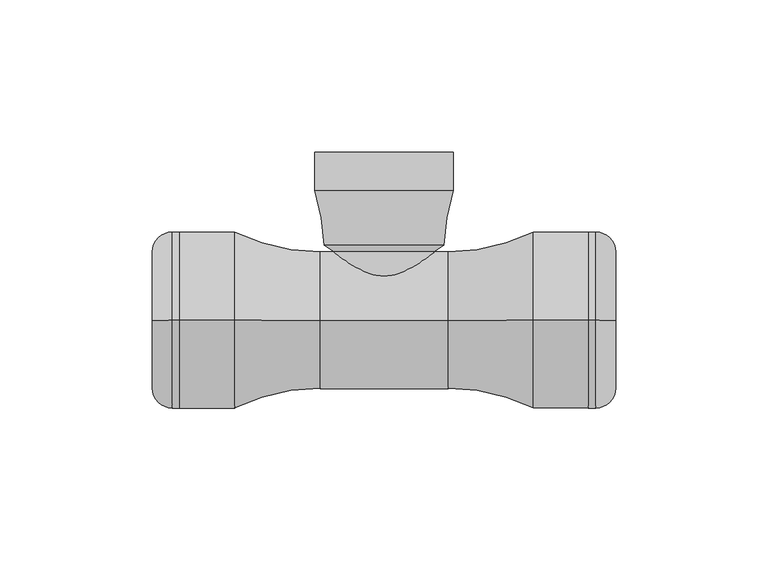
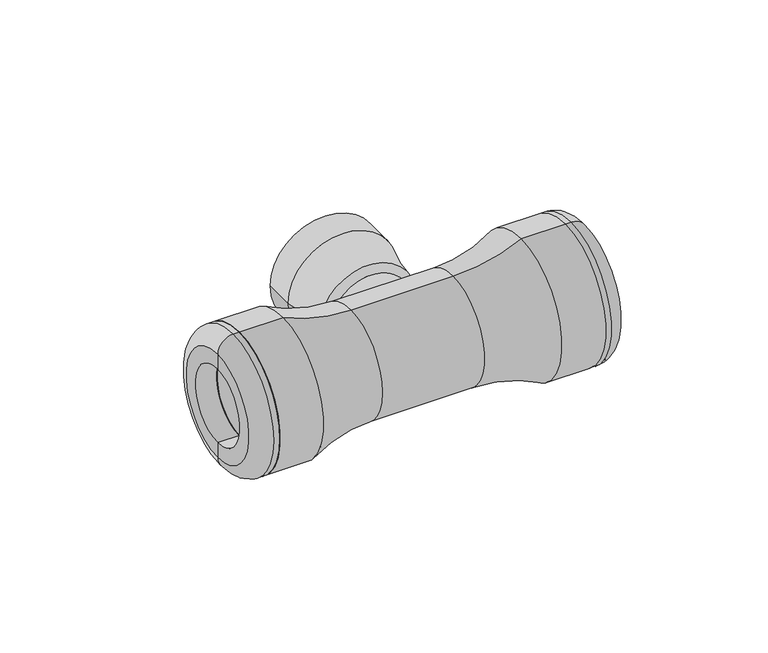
"""IFC4 building model written with IfcOpenShell, lengths in millimetres: pipe fitting geometry, Plumbing_Pipe-Fittings_Plasson_Tee-with-Threaded-Female-Offtake-90_1014 : Plumbing_Pipe-Fittings_Plasson_Tee-with-Threaded-Female-Offtake-90_1014."""

import ifcopenshell
import ifcopenshell.guid

model = None  # the IFC model being written
_history = None  # IfcOwnerHistory: only IFC2X3 demands one
_inside = {}  # id of a spatial element -> (the spatial element, [elements in it])
_under = {}  # id of a project, library or spatial element -> (it, [spatial elements below it])
_declared = {}  # id of a project -> (the project, [libraries it declares])
_typed = {}  # id of a type object -> (the type object, [elements of that type])
_made_of = {}  # id of a material, layer set ... -> (it, [elements and type objects made of it])


def new_model(schema):
    """Start an empty IFC model of exactly this schema.

    Asked for "IFC4X3", IfcOpenShell would pick the latest addendum, in which some entities
    have other attributes; the version numbers below select the first issue.
    IFC2X3 requires an IfcOwnerHistory on every rooted entity: one is made here for all.
    """
    global model, _history
    if schema == "IFC4X3":
        model = ifcopenshell.file(schema_version=(4, 3, 0, 0))
    else:
        model = ifcopenshell.file(schema=schema)
    _inside.clear()
    _under.clear()
    _declared.clear()
    _typed.clear()
    _made_of.clear()
    _history = None
    if model.schema == "IFC2X3":
        org = make("IfcOrganization", Name="unknown")
        user = make(
            "IfcPersonAndOrganization",
            ThePerson=make("IfcPerson", FamilyName="unknown"),
            TheOrganization=org,
        )
        app = make(
            "IfcApplication",
            ApplicationDeveloper=org,
            Version="unknown",
            ApplicationFullName="unknown",
            ApplicationIdentifier="unknown",
        )
        _history = make(
            "IfcOwnerHistory",
            OwningUser=user,
            OwningApplication=app,
            ChangeAction="ADDED",
            CreationDate=0,
        )
    return model


def make(cls, **values):
    """One entity of the class cls with the attributes given. An attribute that is None is left unset."""
    return model.create_entity(
        cls, **{name: value for name, value in values.items() if value is not None}
    )


def rooted(cls, **values):
    """An entity with a GlobalId (a new one), such as an element, a storey or a relation."""
    return make(cls, GlobalId=ifcopenshell.guid.new(), OwnerHistory=_history, **values)


def si_unit(unit_type, name, prefix=None):
    """IfcSIUnit, for example si_unit("LENGTHUNIT", "METRE", prefix="MILLI")."""
    return make("IfcSIUnit", UnitType=unit_type, Prefix=prefix, Name=name)


def assignment(units):
    """IfcUnitAssignment: the units of a project."""
    return None if units is None else make("IfcUnitAssignment", Units=units)


def point(xyz):
    """IfcCartesianPoint."""
    return None if xyz is None else make("IfcCartesianPoint", Coordinates=xyz)


def direction(xyz):
    """IfcDirection."""
    return None if xyz is None else make("IfcDirection", DirectionRatios=xyz)


def frame(location, z_axis=None, x_axis=None):
    """IfcAxis2Placement3D, a coordinate frame: its origin and axes. An axis left out is left unset."""
    return make(
        "IfcAxis2Placement3D",
        Location=point(location),
        Axis=direction(z_axis),
        RefDirection=direction(x_axis),
    )


def origin():
    """The frame at (0, 0, 0) with its axes left unset."""
    return frame((0.0, 0.0, 0.0))


def place(relative_to, where):
    """IfcLocalPlacement: puts the frame where relative to a parent placement (None: the world)."""
    return make(
        "IfcLocalPlacement", PlacementRelTo=relative_to, RelativePlacement=where
    )


def context(
    kind, dimensions, precision=None, world=None, true_north=None, identifier=None
):
    """IfcGeometricRepresentationContext, for example the 3D "Model" context."""
    return make(
        "IfcGeometricRepresentationContext",
        ContextIdentifier=identifier,
        ContextType=kind,
        CoordinateSpaceDimension=dimensions,
        Precision=precision,
        WorldCoordinateSystem=world,
        TrueNorth=true_north,
    )


def project(units=None, contexts=None):
    """IfcProject with its units and contexts."""
    return rooted(
        "IfcProject",
        Name="project",
        RepresentationContexts=contexts,
        UnitsInContext=assignment(units),
    )


def spatial(cls, under=None, at=None, **own):
    """A site, building, storey or space (cls), placed at a placement, below another one or the project."""
    s = rooted(cls, ObjectPlacement=at, **own)
    if under is not None:
        _under.setdefault(under.id(), (under, []))[1].append(s)
    return s


def polyline(points):
    """IfcPolyline through the points."""
    return make("IfcPolyline", Points=[point(p) for p in points])


def circle_curve(where, radius):
    """IfcCircle in the frame where."""
    return make("IfcCircle", Position=where, Radius=radius)


def ellipse_curve(where, semi_axis1, semi_axis2):
    """IfcEllipse in the frame where."""
    return make(
        "IfcEllipse", Position=where, SemiAxis1=semi_axis1, SemiAxis2=semi_axis2
    )


def trimmed(basis, trim1, trim2, sense, master):
    """IfcTrimmedCurve: the piece of a basis curve between two trims."""
    return make(
        "IfcTrimmedCurve",
        BasisCurve=basis,
        Trim1=trim1,
        Trim2=trim2,
        SenseAgreement=sense,
        MasterRepresentation=master,
    )


def shape(context_of_items, identifier, shape_type, items):
    """IfcShapeRepresentation: the items that make up one representation, for example the "Body"."""
    return make(
        "IfcShapeRepresentation",
        ContextOfItems=context_of_items,
        RepresentationIdentifier=identifier,
        RepresentationType=shape_type,
        Items=items,
    )


def source(mapping_origin, context_of_items, identifier, shape_type, items):
    """IfcRepresentationMap: a shape defined once, which mapped items show again and again."""
    return make(
        "IfcRepresentationMap",
        MappingOrigin=mapping_origin,
        MappedRepresentation=shape(context_of_items, identifier, shape_type, items),
    )


def transform(
    local_origin,
    x_axis=None,
    y_axis=None,
    z_axis=None,
    scale=None,
    scale2=None,
    scale3=None,
    uniform=True,
):
    """IfcCartesianTransformationOperator3D, or its non-uniform kind. x_axis, y_axis, z_axis: its Axis1, 2, 3."""
    if uniform:
        return make(
            "IfcCartesianTransformationOperator3D",
            Axis1=direction(x_axis),
            Axis2=direction(y_axis),
            LocalOrigin=point(local_origin),
            Scale=scale,
            Axis3=direction(z_axis),
        )
    return make(
        "IfcCartesianTransformationOperator3DnonUniform",
        Axis1=direction(x_axis),
        Axis2=direction(y_axis),
        LocalOrigin=point(local_origin),
        Scale=scale,
        Axis3=direction(z_axis),
        Scale2=scale2,
        Scale3=scale3,
    )


def mapped(mapping_source, mapping_target):
    """IfcMappedItem: shows the shape of a source again, moved by a transform."""
    return make(
        "IfcMappedItem", MappingSource=mapping_source, MappingTarget=mapping_target
    )


def made_of(thing, what):
    """Note that an element or type object is made of a material, layer set ...; save() writes the relation."""
    if what is not None:
        _made_of.setdefault(what.id(), (what, []))[1].append(thing)
    return thing


def element(
    cls,
    number,
    at=None,
    inside=None,
    cuts=None,
    type_object=None,
    material=None,
    context=None,
    identifier="Body",
    shape_type=None,
    held_by="IfcProductDefinitionShape",
    body=None,
    shapes=None,
    **own,
):
    """One element of the class cls, such as IfcWall. Its Tag is "e" and its number.

    at: its placement. inside: the storey or other place that contains it. cuts: it is an
    opening in that element (IfcRelVoidsElement). A single representation is given by context,
    identifier, shape_type and body (its items); several are given by shapes. held_by: the class
    of the entity that holds the representations. save() writes the other relations.
    """
    e = rooted(cls, Tag="e%d" % number, ObjectPlacement=at, **own)
    if body is not None:
        shapes = [shape(context, identifier, shape_type, body)]
    if shapes is not None:
        e.Representation = make(held_by, Representations=shapes)
    if inside is not None:
        _inside.setdefault(inside.id(), (inside, []))[1].append(e)
    if cuts is not None:
        rooted(
            "IfcRelVoidsElement", RelatingBuildingElement=cuts, RelatedOpeningElement=e
        )
    if type_object is not None:
        _typed.setdefault(type_object.id(), (type_object, []))[1].append(e)
    return made_of(e, material)


def aggregate(whole, parts):
    """IfcRelAggregates: a whole, such as a stair, and the parts it consists of."""
    return rooted("IfcRelAggregates", RelatingObject=whole, RelatedObjects=parts)


def save(model, path):
    """Write the relations noted so far, then the file.

    IfcRelAggregates (storeys below a building ...), IfcRelContainedInSpatialStructure (elements
    in a storey), IfcRelDefinesByType, IfcRelAssociatesMaterial and IfcRelDeclares: one each for
    every whole, place, type object, material and project.
    """
    for whole, parts in _under.values():
        aggregate(whole, parts)
    for where, things in _inside.values():
        rooted(
            "IfcRelContainedInSpatialStructure",
            RelatedElements=things,
            RelatingStructure=where,
        )
    for kind, things in _typed.values():
        rooted("IfcRelDefinesByType", RelatedObjects=things, RelatingType=kind)
    for what, things in _made_of.values():
        rooted("IfcRelAssociatesMaterial", RelatedObjects=things, RelatingMaterial=what)
    for by, libraries in _declared.values():
        rooted("IfcRelDeclares", RelatingContext=by, RelatedDefinitions=libraries)
    model.write(path)


def plane_surface(at):
    """IfcPlane: the flat surface through the origin of the frame at, square to its z axis."""
    return make("IfcPlane", Position=at)


def cylinder_surface(at, radius):
    """IfcCylindricalSurface: all points at the distance radius from the z axis of the frame at."""
    return make("IfcCylindricalSurface", Position=at, Radius=radius)


def revolved_surface(curve, axis_point, axis_direction):
    """IfcSurfaceOfRevolution: the curve turned about the line through axis_point along axis_direction."""
    return make(
        "IfcSurfaceOfRevolution",
        SweptCurve=make("IfcArbitraryOpenProfileDef", ProfileType="CURVE", Curve=curve),
        AxisPosition=make("IfcAxis1Placement", Location=point(axis_point), Axis=direction(axis_direction)),
    )


def advanced_brep(points, edges, surfaces, faces):
    """IfcAdvancedBrep: a solid bounded by faces that lie on surfaces and meet in shared edges.

    An edge is (start, end): straight between two places in points (the first is 0);
    or (start, end, curve); or (start, end, curve, False) where it runs against its curve.
    A face is (place in surfaces, loops), or (place, loops, False) where it looks against
    its surface's normal. A loop lists edges by number (the first is 1), with a minus sign
    where the edge is run from its end to its start. The first loop is the outer one.
    """
    corners = [point(p) for p in points]
    vertices = [make("IfcVertexPoint", VertexGeometry=c) for c in corners]
    made = []
    for start, end, *more in edges:
        made.append(
            make(
                "IfcEdgeCurve",
                EdgeStart=vertices[start],
                EdgeEnd=vertices[end],
                EdgeGeometry=more[0] if more else make("IfcPolyline", Points=[corners[start], corners[end]]),
                SameSense=more[1] if len(more) > 1 else True,
            )
        )
    hull = []
    for where, loops, *sense in faces:
        bounds = []
        for j, loop in enumerate(loops):
            ring = [make("IfcOrientedEdge", EdgeElement=made[abs(k) - 1], Orientation=k > 0) for k in loop]
            bounds.append(
                make(
                    "IfcFaceOuterBound" if j == 0 else "IfcFaceBound",
                    Bound=make("IfcEdgeLoop", EdgeList=ring),
                    Orientation=True,
                )
            )
        hull.append(make("IfcAdvancedFace", Bounds=bounds, FaceSurface=surfaces[where], SameSense=sense[0] if sense else True))
    return make("IfcAdvancedBrep", Outer=make("IfcClosedShell", CfsFaces=hull))


def pipe_fitting_9204cc5e(model_context):
    return source(origin(), model_context, "Body", "AdvancedBrep", [
        advanced_brep(
        [(0.0, 55.0, -17.15), (0.0, 55.0, 17.15), (0.0, 55.0, 15.15), (0.0, 55.0, -15.15), (0.0, 34.0, -17.15), (0.0, 34.0, 17.15), (0.0, 34.0, -15.15), (0.0, 34.0, 15.15)],
        [
            (0, 1, circle_curve(frame((0.0, 55.0, 0.0), z_axis=(0.0, 1.0, 0.0), x_axis=(0.0, 0.0, 1.0000000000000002)), 17.15)),
            (1, 2),
            (2, 3, circle_curve(frame((0.0, 55.0, 0.0), z_axis=(0.0, -1.0, 0.0), x_axis=(0.0, 0.0, 1.0000000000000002)), 15.15)),
            (3, 0),
            (1, 0, circle_curve(frame((0.0, 55.0, 0.0), z_axis=(0.0, 1.0, 0.0), x_axis=(0.0, 0.0, 1.0000000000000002)), 17.15)),
            (3, 2, circle_curve(frame((0.0, 55.0, 0.0), z_axis=(0.0, -1.0, 0.0), x_axis=(0.0, 0.0, 1.0000000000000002)), 15.15)),
            (4, 5, circle_curve(frame((0.0, 34.0, 0.0), z_axis=(0.0, 1.0, 0.0), x_axis=(0.0, 0.0, 1.0000000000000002)), 17.15)),
            (5, 1),
            (0, 4),
            (5, 4, circle_curve(frame((0.0, 34.0, 0.0), z_axis=(0.0, 1.0, 0.0), x_axis=(0.0, 0.0, 1.0000000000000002)), 17.15)),
            (6, 7, circle_curve(frame((0.0, 34.0, 0.0), z_axis=(0.0, 1.0, 0.0), x_axis=(0.0, 0.0, 1.0000000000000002)), 15.15)),
            (7, 5),
            (4, 6),
            (7, 6, circle_curve(frame((0.0, 34.0, 0.0), z_axis=(0.0, 1.0, 0.0), x_axis=(0.0, 0.0, 1.0000000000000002)), 15.15)),
            (2, 7),
            (6, 3),
        ],
        [
            plane_surface(frame((0.0, 55.0, 0.0), z_axis=(0.0, 1.0, 0.0), x_axis=(0.0, 0.0, 1.0))),
            cylinder_surface(frame((0.0, 49.3333333, 0.0), z_axis=(0.0, -1.0000000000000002, 0.0), x_axis=(0.0, 0.0, 1.0000000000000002)), 17.15),
            plane_surface(frame((0.0, 34.0, 0.0), z_axis=(0.0, -1.0, 0.0), x_axis=(0.0, 0.0, 1.0))),
            revolved_surface(polyline([(0.0, 33.99999999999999, 15.150000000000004), (0.0, 55.0, 15.150000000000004)]), (0.0, 49.3333333, 0.0), (0.0, -1.0000000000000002, 0.0)),
        ],
        [
            (0, [[1, 2, 3, 4]]),
            (0, [[5, -4, 6, -2]]),
            (1, [[7, 8, -1, 9]]),
            (1, [[10, -9, -5, -8]]),
            (2, [[11, 12, -7, 13]]),
            (2, [[14, -13, -10, -12]]),
            (3, [[-3, 15, -11, 16]]),
            (3, [[-6, -16, -14, -15]]),
        ],
    ),
        advanced_brep(
        [(22.65, 42.5, 0.0), (-22.65, 42.5, 0.0), (-22.65, 55.0, 0.0), (22.65, 55.0, 0.0), (17.15, 55.0, 0.0), (-17.15, 55.0, 0.0), (-17.15, 34.0, 0.0), (17.15, 34.0, 0.0), (16.65, 22.5, 0.0), (-16.65, 22.5, 0.0), (-19.65, 24.4615047, 0.0), (19.65, 24.4615047, 0.0), (15.15, 34.0, 0.0), (-15.15, 34.0, 0.0), (-15.15, 0.0, 0.0), (15.15, 0.0, 0.0), (16.65, 0.0, 0.0), (-16.65, 0.0, 0.0)],
        [
            (0, 1, circle_curve(frame((0.0, 42.5, 0.0), z_axis=(0.0, 1.0, 0.0), x_axis=(-1.0, 0.0, 0.0)), 22.65)),
            (1, 2),
            (2, 3, circle_curve(frame((0.0, 55.0, 0.0), z_axis=(0.0, -1.0, 0.0), x_axis=(-1.0, 0.0, 0.0)), 22.65)),
            (3, 0),
            (1, 0, circle_curve(frame((0.0, 42.5, 0.0), z_axis=(0.0, 1.0, 0.0), x_axis=(-1.0, 0.0, 0.0)), 22.65)),
            (3, 2, circle_curve(frame((0.0, 55.0, 0.0), z_axis=(0.0, -1.0, 0.0), x_axis=(-1.0, 0.0, 0.0)), 22.65)),
            (4, 5, circle_curve(frame((0.0, 55.0, 0.0), z_axis=(0.0, 1.0, 0.0), x_axis=(-1.0, 0.0, 0.0)), 17.15)),
            (5, 6),
            (6, 7, circle_curve(frame((0.0, 34.0, 0.0), z_axis=(0.0, -1.0, 0.0), x_axis=(-1.0, 0.0, 0.0)), 17.15)),
            (7, 4),
            (5, 4, circle_curve(frame((0.0, 55.0, 0.0), z_axis=(0.0, 1.0, 0.0), x_axis=(-1.0, 0.0, 0.0)), 17.15)),
            (7, 6, circle_curve(frame((0.0, 34.0, 0.0), z_axis=(0.0, -1.0, 0.0), x_axis=(-1.0, 0.0, 0.0)), 17.15)),
            (2, 5),
            (4, 3),
            (8, 9, circle_curve(frame((0.0, 22.5, 0.0), z_axis=(0.0, 1.0, 0.0), x_axis=(-1.0, 0.0, 0.0)), 16.65)),
            (9, 10),
            (10, 11, circle_curve(frame((0.0, 24.4615047, 0.0), z_axis=(0.0, -1.0, 0.0), x_axis=(-1.0, 0.0, 0.0)), 19.65)),
            (11, 8),
            (9, 8, circle_curve(frame((0.0, 22.5, 0.0), z_axis=(0.0, 1.0, 0.0), x_axis=(-1.0, 0.0, 0.0)), 16.65)),
            (11, 10, circle_curve(frame((0.0, 24.4615047, 0.0), z_axis=(0.0, -1.0, 0.0), x_axis=(-1.0, 0.0, 0.0)), 19.65)),
            (12, 13, circle_curve(frame((0.0, 34.0, 0.0), z_axis=(0.0, 1.0, 0.0), x_axis=(-1.0, 0.0, 0.0)), 15.15)),
            (13, 14),
            (14, 15, circle_curve(frame((0.0, 0.0, 0.0), z_axis=(0.0, -1.0, 0.0), x_axis=(-1.0, 0.0, 0.0)), 15.15)),
            (15, 12),
            (13, 12, circle_curve(frame((0.0, 34.0, 0.0), z_axis=(0.0, 1.0, 0.0), x_axis=(-1.0, 0.0, 0.0)), 15.15)),
            (15, 14, circle_curve(frame((0.0, 0.0, 0.0), z_axis=(0.0, -1.0, 0.0), x_axis=(-1.0, 0.0, 0.0)), 15.15)),
            (6, 13),
            (12, 7),
            (10, 1, circle_curve(frame((-86.6454313, 22.5881424, 0.0), z_axis=(0.0, 0.0, 1.0), x_axis=(1.0, 0.0, 0.0)), 67.0216182)),
            (0, 11, circle_curve(frame((86.6454313, 22.5881424, 0.0), z_axis=(0.0, 0.0, 1.0), x_axis=(-1.0, 0.0, 0.0)), 67.0216182)),
            (16, 17, circle_curve(frame((0.0, 0.0, 0.0), z_axis=(0.0, 1.0, 0.0), x_axis=(-1.0, 0.0, 0.0)), 16.65)),
            (17, 9),
            (8, 16),
            (17, 16, circle_curve(frame((0.0, 0.0, 0.0), z_axis=(0.0, 1.0, 0.0), x_axis=(-1.0, 0.0, 0.0)), 16.65)),
            (14, 17),
            (16, 15),
        ],
        [
            cylinder_surface(frame((0.0, 55.0, 0.0), z_axis=(0.0, -1.0, 0.0), x_axis=(-1.0, 0.0, 0.0)), 22.65),
            revolved_surface(polyline([(-17.15, 34.0, 0.0), (-17.15, 55.0, 0.0)]), (0.0, 55.0, 0.0), (0.0, -1.0, 0.0)),
            plane_surface(frame((0.0, 55.0, 0.0), z_axis=(0.0, 1.0, 0.0), x_axis=(-1.0, 0.0, 0.0))),
            revolved_surface(polyline([(-19.65, 24.4615047, 0.0), (-16.65, 22.5, 0.0)]), (0.0, 55.0, 0.0), (0.0, -1.0, 0.0)),
            revolved_surface(polyline([(-15.15, 0.0, 0.0), (-15.15, 34.0, 0.0)]), (0.0, 55.0, 0.0), (0.0, -1.0, 0.0)),
            plane_surface(frame((0.0, 34.0, 0.0), z_axis=(0.0, 1.0, 0.0), x_axis=(-1.0, 0.0, 0.0))),
            revolved_surface(trimmed(ellipse_curve(frame((-86.6454313, 22.5881424, 0.0), z_axis=(0.0, 0.0, -1.0), x_axis=(1.0, 0.0, 0.0)), 67.0216182, 67.0216182), [point((-22.65, 42.5, 0.0))], [point((-19.65, 24.4615047, 0.0))], True, "CARTESIAN"), (0.0, 55.0, 0.0), (0.0, -1.0, 0.0)),
            cylinder_surface(frame((0.0, 55.0, 0.0), z_axis=(0.0, -1.0, 0.0), x_axis=(-1.0, 0.0, 0.0)), 16.65),
            plane_surface(frame((0.0, 0.0, 0.0), z_axis=(0.0, -1.0, 0.0), x_axis=(-1.0, 0.0, 0.0))),
        ],
        [
            (0, [[1, 2, 3, 4]]),
            (0, [[5, -4, 6, -2]]),
            (1, [[7, 8, 9, 10]]),
            (1, [[11, -10, 12, -8]]),
            (2, [[-3, 13, -7, 14]]),
            (2, [[-6, -14, -11, -13]]),
            (3, [[15, 16, 17, 18]]),
            (3, [[19, -18, 20, -16]]),
            (4, [[21, 22, 23, 24]]),
            (4, [[25, -24, 26, -22]]),
            (5, [[-9, 27, -21, 28]]),
            (5, [[-12, -28, -25, -27]]),
            (6, [[-17, 29, -1, 30]]),
            (6, [[-20, -30, -5, -29]]),
            (7, [[31, 32, -15, 33]]),
            (7, [[34, -33, -19, -32]]),
            (8, [[-23, 35, -31, 36]]),
            (8, [[-26, -36, -34, -35]]),
        ],
    ),
        advanced_brep(
        [(49.0, 0.0, -29.0), (49.0, 0.0, 29.0), (67.0, 0.0, 29.0), (67.0, 0.0, -29.0), (21.0, 0.0, -22.5), (21.0, 0.0, 22.5), (22.0, 0.0, -14.0), (22.0, 0.0, 14.0), (21.0, 0.0, 14.0), (21.0, 0.0, -14.0), (22.0, 0.0, -16.0), (22.0, 0.0, 16.0), (67.0, 0.0, -16.0), (67.0, 0.0, 16.0), (-21.0, 0.0, 22.5), (-21.0, 0.0, -22.5), (-21.0, 13.2251682, -18.2028824), (-21.0, 21.3987716, -6.9528824), (-21.0, 21.3987716, 6.9528824), (-21.0, 13.2251682, 18.2028824), (-21.0, -13.2251682, 18.2028824), (-21.0, -21.3987716, 6.9528824), (-21.0, -21.3987716, -6.9528824), (-21.0, -13.2251682, -18.2028824), (-21.0, 0.0, 14.0), (-21.0, 0.0, -14.0), (-67.0, 0.0, -16.0), (-67.0, 0.0, 16.0), (-67.0, 0.0, 29.0), (-67.0, 0.0, -29.0), (-22.0, 0.0, -16.0), (-22.0, 0.0, 16.0), (-22.0, 0.0, -14.0), (-22.0, 0.0, 14.0), (-49.0, 0.0, -29.0), (-49.0, 0.0, 29.0)],
        [
            (0, 1, circle_curve(frame((49.0, 0.0, 0.0), z_axis=(1.0, 0.0, 0.0), x_axis=(0.0, 0.0, 1.0)), 29.0)),
            (1, 2),
            (2, 3, circle_curve(frame((67.0, 0.0, 0.0), z_axis=(-1.0, 0.0, 0.0), x_axis=(0.0, 0.0, 1.0)), 29.0)),
            (3, 0),
            (1, 0, circle_curve(frame((49.0, 0.0, 0.0), z_axis=(1.0, 0.0, 0.0), x_axis=(0.0, 0.0, 1.0)), 29.0)),
            (3, 2, circle_curve(frame((67.0, 0.0, 0.0), z_axis=(-1.0, 0.0, 0.0), x_axis=(0.0, 0.0, 1.0)), 29.0)),
            (0, 4, circle_curve(frame((21.0, 0.0, -86.0576923), z_axis=(0.0, -1.0, 0.0), x_axis=(1.0, 0.0, 0.0)), 63.5576923)),
            (4, 5, circle_curve(frame((21.0, 0.0, 0.0), z_axis=(1.0, 0.0, 0.0), x_axis=(0.0, 0.0, 1.0)), 22.5)),
            (5, 1, circle_curve(frame((21.0, 0.0, 86.0576923), z_axis=(0.0, -1.0, 0.0), x_axis=(1.0, 0.0, 0.0)), 63.5576923)),
            (5, 4, circle_curve(frame((21.0, 0.0, 0.0), z_axis=(1.0, 0.0, 0.0), x_axis=(0.0, 0.0, 1.0)), 22.5)),
            (6, 7, circle_curve(frame((22.0, 0.0, 0.0), z_axis=(1.0, 0.0, 0.0), x_axis=(0.0, 0.0, 1.0)), 14.0)),
            (7, 8),
            (8, 9, circle_curve(frame((21.0, 0.0, 0.0), z_axis=(-1.0, 0.0, 0.0), x_axis=(0.0, 0.0, 1.0)), 14.0)),
            (9, 6),
            (7, 6, circle_curve(frame((22.0, 0.0, 0.0), z_axis=(1.0, 0.0, 0.0), x_axis=(0.0, 0.0, 1.0)), 14.0)),
            (9, 8, circle_curve(frame((21.0, 0.0, 0.0), z_axis=(-1.0, 0.0, 0.0), x_axis=(0.0, 0.0, 1.0)), 14.0)),
            (6, 10),
            (10, 11, circle_curve(frame((22.0, 0.0, 0.0), z_axis=(1.0, 0.0, 0.0), x_axis=(0.0, 0.0, 1.0)), 16.0)),
            (11, 7),
            (11, 10, circle_curve(frame((22.0, 0.0, 0.0), z_axis=(1.0, 0.0, 0.0), x_axis=(0.0, 0.0, 1.0)), 16.0)),
            (10, 12),
            (12, 13, circle_curve(frame((67.0, 0.0, 0.0), z_axis=(1.0, 0.0, 0.0), x_axis=(0.0, 0.0, 1.0)), 16.0)),
            (13, 11),
            (13, 12, circle_curve(frame((67.0, 0.0, 0.0), z_axis=(1.0, 0.0, 0.0), x_axis=(0.0, 0.0, 1.0)), 16.0)),
            (2, 13),
            (12, 3),
            (14, 5),
            (4, 15),
            (15, 16, circle_curve(frame((-21.0, 0.0, 0.0), z_axis=(1.0, 0.0, 0.0), x_axis=(0.0, 0.0, 1.0)), 22.5)),
            (16, 17, circle_curve(frame((-21.0, 0.0, 0.0), z_axis=(1.0, 0.0, 0.0), x_axis=(0.0, 0.0, 1.0)), 22.5)),
            (17, 18, circle_curve(frame((-21.0, 0.0, 0.0), z_axis=(1.0, 0.0, 0.0), x_axis=(0.0, 0.0, 1.0)), 22.5)),
            (18, 19, circle_curve(frame((-21.0, 0.0, 0.0), z_axis=(1.0, 0.0, 0.0), x_axis=(0.0, 0.0, 1.0)), 22.5)),
            (19, 14, circle_curve(frame((-21.0, 0.0, 0.0), z_axis=(1.0, 0.0, 0.0), x_axis=(0.0, 0.0, 1.0)), 22.5)),
            (14, 20, circle_curve(frame((-21.0, 0.0, 0.0), z_axis=(1.0, 0.0, 0.0), x_axis=(0.0, 0.0, 1.0)), 22.5)),
            (20, 21, circle_curve(frame((-21.0, 0.0, 0.0), z_axis=(1.0, 0.0, 0.0), x_axis=(0.0, 0.0, 1.0)), 22.5)),
            (21, 22, circle_curve(frame((-21.0, 0.0, 0.0), z_axis=(1.0, 0.0, 0.0), x_axis=(0.0, 0.0, 1.0)), 22.5)),
            (22, 23, circle_curve(frame((-21.0, 0.0, 0.0), z_axis=(1.0, 0.0, 0.0), x_axis=(0.0, 0.0, 1.0)), 22.5)),
            (23, 15, circle_curve(frame((-21.0, 0.0, 0.0), z_axis=(1.0, 0.0, 0.0), x_axis=(0.0, 0.0, 1.0)), 22.5)),
            (8, 24),
            (24, 25, circle_curve(frame((-21.0, 0.0, 0.0), z_axis=(-1.0, 0.0, 0.0), x_axis=(0.0, 0.0, 1.0)), 14.0)),
            (25, 9),
            (25, 24, circle_curve(frame((-21.0, 0.0, 0.0), z_axis=(-1.0, 0.0, 0.0), x_axis=(0.0, 0.0, 1.0)), 14.0)),
            (26, 27, circle_curve(frame((-67.0, 0.0, 0.0), z_axis=(1.0, 0.0, 0.0), x_axis=(0.0, 0.0, 1.0)), 16.0)),
            (27, 28),
            (28, 29, circle_curve(frame((-67.0, 0.0, 0.0), z_axis=(-1.0, 0.0, 0.0), x_axis=(0.0, 0.0, 1.0)), 29.0)),
            (29, 26),
            (27, 26, circle_curve(frame((-67.0, 0.0, 0.0), z_axis=(1.0, 0.0, 0.0), x_axis=(0.0, 0.0, 1.0)), 16.0)),
            (29, 28, circle_curve(frame((-67.0, 0.0, 0.0), z_axis=(-1.0, 0.0, 0.0), x_axis=(0.0, 0.0, 1.0)), 29.0)),
            (26, 30),
            (30, 31, circle_curve(frame((-22.0, 0.0, 0.0), z_axis=(1.0, 0.0, 0.0), x_axis=(0.0, 0.0, 1.0)), 16.0)),
            (31, 27),
            (31, 30, circle_curve(frame((-22.0, 0.0, 0.0), z_axis=(1.0, 0.0, 0.0), x_axis=(0.0, 0.0, 1.0)), 16.0)),
            (30, 32),
            (32, 33, circle_curve(frame((-22.0, 0.0, 0.0), z_axis=(1.0, 0.0, 0.0), x_axis=(0.0, 0.0, 1.0)), 14.0)),
            (33, 31),
            (33, 32, circle_curve(frame((-22.0, 0.0, 0.0), z_axis=(1.0, 0.0, 0.0), x_axis=(0.0, 0.0, 1.0)), 14.0)),
            (32, 25),
            (24, 33),
            (34, 35, circle_curve(frame((-49.0, 0.0, 0.0), z_axis=(1.0, 0.0, 0.0), x_axis=(0.0, 0.0, 1.0)), 29.0)),
            (35, 14, circle_curve(frame((-21.0, 0.0, 86.0576923), z_axis=(0.0, -1.0, 0.0), x_axis=(1.0, 0.0, 0.0)), 63.5576923)),
            (15, 34, circle_curve(frame((-21.0, 0.0, -86.0576923), z_axis=(0.0, -1.0, 0.0), x_axis=(1.0, 0.0, 0.0)), 63.5576923)),
            (35, 34, circle_curve(frame((-49.0, 0.0, 0.0), z_axis=(1.0, 0.0, 0.0), x_axis=(0.0, 0.0, 1.0)), 29.0)),
            (28, 35),
            (34, 29),
        ],
        [
            cylinder_surface(frame((-21.0, 0.0, 0.0), z_axis=(-1.0, 0.0, 0.0), x_axis=(0.0, 0.0, 1.0)), 29.0),
            revolved_surface(trimmed(ellipse_curve(frame((21.0, 0.0, 86.0576923), z_axis=(0.0, 1.0, 0.0), x_axis=(1.0, 0.0, 0.0)), 63.5576923, 63.5576923), [point((49.0, 0.0, 29.0))], [point((21.0, 0.0, 22.5))], True, "CARTESIAN"), (-21.0, 0.0, 0.0), (-1.0, 0.0, 0.0)),
            revolved_surface(polyline([(21.0, 0.0, 14.0), (22.0, 0.0, 14.0)]), (-21.0, 0.0, 0.0), (-1.0, 0.0, 0.0)),
            plane_surface(frame((22.0, 0.0, 0.0), z_axis=(1.0, 0.0, 0.0), x_axis=(0.0, 0.0, 1.0))),
            revolved_surface(polyline([(22.0, 0.0, 16.0), (67.0, 0.0, 16.0)]), (-21.0, 0.0, 0.0), (-1.0, 0.0, 0.0)),
            plane_surface(frame((67.0, 0.0, 0.0), z_axis=(1.0, 0.0, 0.0), x_axis=(0.0, 0.0, 1.0))),
            cylinder_surface(frame((-32.0, 0.0, 0.0), z_axis=(-1.0, 0.0, 0.0), x_axis=(0.0, 0.0, 1.0)), 22.5),
            revolved_surface(polyline([(-21.0, 0.0, 14.0), (21.0, 0.0, 14.0)]), (-32.0, 0.0, 0.0), (-1.0, 0.0, 0.0)),
            plane_surface(frame((-67.0, 0.0, 0.0), z_axis=(-1.0, 0.0, 0.0), x_axis=(0.0, 0.0, 1.0))),
            revolved_surface(polyline([(-67.0, 0.0, 16.0), (-22.0, 0.0, 16.0)]), (-67.0, 0.0, 0.0), (-1.0, 0.0, 0.0)),
            plane_surface(frame((-22.0, 0.0, 0.0), z_axis=(-1.0, 0.0, 0.0), x_axis=(0.0, 0.0, 1.0))),
            revolved_surface(polyline([(-22.0, 0.0, 14.0), (-21.0, 0.0, 14.0)]), (-67.0, 0.0, 0.0), (-1.0, 0.0, 0.0)),
            revolved_surface(trimmed(ellipse_curve(frame((-21.0, 0.0, 86.0576923), z_axis=(0.0, 1.0, 0.0), x_axis=(1.0, 0.0, 0.0)), 63.5576923, 63.5576923), [point((-21.0, 0.0, 22.5))], [point((-49.0, 0.0, 29.0))], True, "CARTESIAN"), (-67.0, 0.0, 0.0), (-1.0, 0.0, 0.0)),
            cylinder_surface(frame((-67.0, 0.0, 0.0), z_axis=(-1.0, 0.0, 0.0), x_axis=(0.0, 0.0, 1.0)), 29.0),
        ],
        [
            (0, [[1, 2, 3, 4]]),
            (0, [[-2, 5, -4, 6]]),
            (1, [[-1, 7, 8, 9]]),
            (1, [[-5, -9, 10, -7]]),
            (2, [[11, 12, 13, 14]]),
            (2, [[-12, 15, -14, 16]]),
            (3, [[-11, 17, 18, 19]]),
            (3, [[-15, -19, 20, -17]]),
            (4, [[-18, 21, 22, 23]]),
            (4, [[-20, -23, 24, -21]]),
            (5, [[-3, 25, -22, 26]]),
            (5, [[-6, -26, -24, -25]]),
            (6, [[27, -8, 28, 29, 30, 31, 32, 33]]),
            (6, [[-27, 34, 35, 36, 37, 38, -28, -10]]),
            (7, [[39, 40, 41, -13]]),
            (7, [[-39, -16, -41, 42]]),
            (8, [[43, 44, 45, 46]]),
            (8, [[-44, 47, -46, 48]]),
            (9, [[-43, 49, 50, 51]]),
            (9, [[-47, -51, 52, -49]]),
            (10, [[-50, 53, 54, 55]]),
            (10, [[-52, -55, 56, -53]]),
            (11, [[-54, 57, -40, 58]]),
            (11, [[-56, -58, -42, -57]]),
            (12, [[59, 60, -33, -32, -31, -30, -29, 61]]),
            (12, [[-60, 62, -61, -38, -37, -36, -35, -34]]),
            (13, [[-45, 63, -59, 64]]),
            (13, [[-48, -64, -62, -63]]),
        ],
    ),
        advanced_brep(
        [(76.0, 0.0, -16.0), (76.0, 0.0, 16.0), (67.0, 0.0, 16.0), (67.0, 0.0, -16.0), (76.0, 0.0, -22.5), (76.0, 0.0, 22.5), (69.5, 0.0, -29.0), (69.5, 0.0, 29.0), (67.0, 0.0, -29.0), (67.0, 0.0, 29.0)],
        [
            (0, 1, circle_curve(frame((76.0, 0.0, 0.0), z_axis=(1.0, 0.0, 0.0), x_axis=(0.0, 0.0, 1.0)), 16.0)),
            (1, 2),
            (2, 3, circle_curve(frame((67.0, 0.0, 0.0), z_axis=(-1.0, 0.0, 0.0), x_axis=(0.0, 0.0, 1.0)), 16.0)),
            (3, 0),
            (1, 0, circle_curve(frame((76.0, 0.0, 0.0), z_axis=(1.0, 0.0, 0.0), x_axis=(0.0, 0.0, 1.0)), 16.0)),
            (3, 2, circle_curve(frame((67.0, 0.0, 0.0), z_axis=(-1.0, 0.0, 0.0), x_axis=(0.0, 0.0, 1.0)), 16.0)),
            (4, 5, circle_curve(frame((76.0, 0.0, 0.0), z_axis=(1.0, 0.0, 0.0), x_axis=(0.0, 0.0, 1.0)), 22.5)),
            (5, 1),
            (0, 4),
            (5, 4, circle_curve(frame((76.0, 0.0, 0.0), z_axis=(1.0, 0.0, 0.0), x_axis=(0.0, 0.0, 1.0)), 22.5)),
            (6, 7, circle_curve(frame((69.5, 0.0, 0.0), z_axis=(1.0, 0.0, 0.0), x_axis=(0.0, 0.0, 1.0)), 29.0)),
            (7, 5, circle_curve(frame((69.5, 0.0, 22.5), z_axis=(0.0, 1.0, 0.0), x_axis=(1.0, 0.0, 0.0)), 6.5)),
            (4, 6, circle_curve(frame((69.5, 0.0, -22.5), z_axis=(0.0, 1.0, 0.0), x_axis=(1.0, 0.0, 0.0)), 6.5)),
            (7, 6, circle_curve(frame((69.5, 0.0, 0.0), z_axis=(1.0, 0.0, 0.0), x_axis=(0.0, 0.0, 1.0)), 29.0)),
            (8, 9, circle_curve(frame((67.0, 0.0, 0.0), z_axis=(1.0, 0.0, 0.0), x_axis=(0.0, 0.0, 1.0)), 29.0)),
            (9, 7),
            (6, 8),
            (9, 8, circle_curve(frame((67.0, 0.0, 0.0), z_axis=(1.0, 0.0, 0.0), x_axis=(0.0, 0.0, 1.0)), 29.0)),
            (2, 9),
            (8, 3),
        ],
        [
            revolved_surface(polyline([(67.0, 0.0, 16.0), (76.0, 0.0, 16.0)]), (22.5971637, 0.0, 0.0), (-1.0, 0.0, 0.0)),
            plane_surface(frame((76.0, 0.0, 0.0), z_axis=(1.0, 0.0, 0.0), x_axis=(0.0, 0.0, 1.0))),
            revolved_surface(trimmed(ellipse_curve(frame((69.5, 0.0, 22.5), z_axis=(0.0, -1.0, 0.0), x_axis=(1.0, 0.0, 0.0)), 6.5, 6.5), [point((76.0, 0.0, 22.5))], [point((69.5, 0.0, 29.0))], True, "CARTESIAN"), (22.5971637, 0.0, 0.0), (-1.0, 0.0, 0.0)),
            cylinder_surface(frame((22.5971637, 0.0, 0.0), z_axis=(-1.0, 0.0, 0.0), x_axis=(0.0, 0.0, 1.0)), 29.0),
            plane_surface(frame((67.0, 0.0, 0.0), z_axis=(-1.0, 0.0, 0.0), x_axis=(0.0, 0.0, 1.0))),
        ],
        [
            (0, [[1, 2, 3, 4]]),
            (0, [[5, -4, 6, -2]]),
            (1, [[7, 8, -1, 9]]),
            (1, [[10, -9, -5, -8]]),
            (2, [[11, 12, -7, 13]]),
            (2, [[14, -13, -10, -12]]),
            (3, [[15, 16, -11, 17]]),
            (3, [[18, -17, -14, -16]]),
            (4, [[-3, 19, -15, 20]]),
            (4, [[-6, -20, -18, -19]]),
        ],
    ),
        advanced_brep(
        [(-67.0, 0.0, -29.0), (-67.0, 0.0, 29.0), (-67.0, 0.0, 16.0), (-67.0, 0.0, -16.0), (-69.5, 0.0, -29.0), (-69.5, 0.0, 29.0), (-76.0, 0.0, -22.5), (-76.0, 0.0, 22.5), (-76.0, 0.0, -16.0), (-76.0, 0.0, 16.0)],
        [
            (0, 1, circle_curve(frame((-67.0, 0.0, 0.0), z_axis=(1.0, 0.0, 0.0), x_axis=(0.0, 0.0, 1.0)), 29.0)),
            (1, 2),
            (2, 3, circle_curve(frame((-67.0, 0.0, 0.0), z_axis=(-1.0, 0.0, 0.0), x_axis=(0.0, 0.0, 1.0)), 16.0)),
            (3, 0),
            (1, 0, circle_curve(frame((-67.0, 0.0, 0.0), z_axis=(1.0, 0.0, 0.0), x_axis=(0.0, 0.0, 1.0)), 29.0)),
            (3, 2, circle_curve(frame((-67.0, 0.0, 0.0), z_axis=(-1.0, 0.0, 0.0), x_axis=(0.0, 0.0, 1.0)), 16.0)),
            (4, 5, circle_curve(frame((-69.5, 0.0, 0.0), z_axis=(1.0, 0.0, 0.0), x_axis=(0.0, 0.0, 1.0)), 29.0)),
            (5, 1),
            (0, 4),
            (5, 4, circle_curve(frame((-69.5, 0.0, 0.0), z_axis=(1.0, 0.0, 0.0), x_axis=(0.0, 0.0, 1.0)), 29.0)),
            (6, 7, circle_curve(frame((-76.0, 0.0, 0.0), z_axis=(1.0, 0.0, 0.0), x_axis=(0.0, 0.0, 1.0)), 22.5)),
            (7, 5, circle_curve(frame((-69.5, 0.0, 22.5), z_axis=(0.0, 1.0, 0.0), x_axis=(1.0, 0.0, 0.0)), 6.5)),
            (4, 6, circle_curve(frame((-69.5, 0.0, -22.5), z_axis=(0.0, 1.0, 0.0), x_axis=(1.0, 0.0, 0.0)), 6.5)),
            (7, 6, circle_curve(frame((-76.0, 0.0, 0.0), z_axis=(1.0, 0.0, 0.0), x_axis=(0.0, 0.0, 1.0)), 22.5)),
            (8, 9, circle_curve(frame((-76.0, 0.0, 0.0), z_axis=(1.0, 0.0, 0.0), x_axis=(0.0, 0.0, 1.0)), 16.0)),
            (9, 7),
            (6, 8),
            (9, 8, circle_curve(frame((-76.0, 0.0, 0.0), z_axis=(1.0, 0.0, 0.0), x_axis=(0.0, 0.0, 1.0)), 16.0)),
            (2, 9),
            (8, 3),
        ],
        [
            plane_surface(frame((-67.0, 0.0, 0.0), z_axis=(1.0, 0.0, 0.0), x_axis=(0.0, 0.0, 1.0))),
            cylinder_surface(frame((-81.0, 0.0, 0.0), z_axis=(-1.0, 0.0, 0.0), x_axis=(0.0, 0.0, 1.0)), 29.0),
            revolved_surface(trimmed(ellipse_curve(frame((-69.5, 0.0, 22.5), z_axis=(0.0, -1.0, 0.0), x_axis=(1.0, 0.0, 0.0)), 6.5, 6.5), [point((-69.5, 0.0, 29.0))], [point((-76.0, 0.0, 22.5))], True, "CARTESIAN"), (-81.0, 0.0, 0.0), (-1.0, 0.0, 0.0)),
            plane_surface(frame((-76.0, 0.0, 0.0), z_axis=(-1.0, 0.0, 0.0), x_axis=(0.0, 0.0, 1.0))),
            revolved_surface(polyline([(-76.0, 0.0, 16.0), (-67.0, 0.0, 16.0)]), (-81.0, 0.0, 0.0), (-1.0, 0.0, 0.0)),
        ],
        [
            (0, [[1, 2, 3, 4]]),
            (0, [[5, -4, 6, -2]]),
            (1, [[7, 8, -1, 9]]),
            (1, [[10, -9, -5, -8]]),
            (2, [[11, 12, -7, 13]]),
            (2, [[14, -13, -10, -12]]),
            (3, [[15, 16, -11, 17]]),
            (3, [[18, -17, -14, -16]]),
            (4, [[-3, 19, -15, 20]]),
            (4, [[-6, -20, -18, -19]]),
        ],
    ),
    ])


if __name__ == "__main__":
    model = new_model("IFC4")
    model_context = context("Model", 3, world=origin())
    ifc_project = project(units=[si_unit("LENGTHUNIT", "METRE", prefix="MILLI")], contexts=[model_context])
    site = spatial("IfcSite", under=ifc_project)
    building = spatial("IfcBuilding", under=site)
    placement = place(None, origin())
    pipe_fitting_shape = pipe_fitting_9204cc5e(model_context)
    element("IfcPipeFitting", 1, ObjectType="Plumbing_Pipe-Fittings_Plasson_Tee-with-Threaded-Female-Offtake-90_1014 : Plumbing_Pipe-Fittings_Plasson_Tee-with-Threaded-Female-Offtake-90_1014", at=placement, inside=building, context=model_context, shape_type="MappedRepresentation", body=[
        mapped(pipe_fitting_shape, transform((0.0, 0.0, 0.0), x_axis=(1.0, 0.0, 0.0), y_axis=(0.0, 1.0, 0.0), z_axis=(0.0, 0.0, 1.0))),
    ])
    save(model, "model.ifc")
